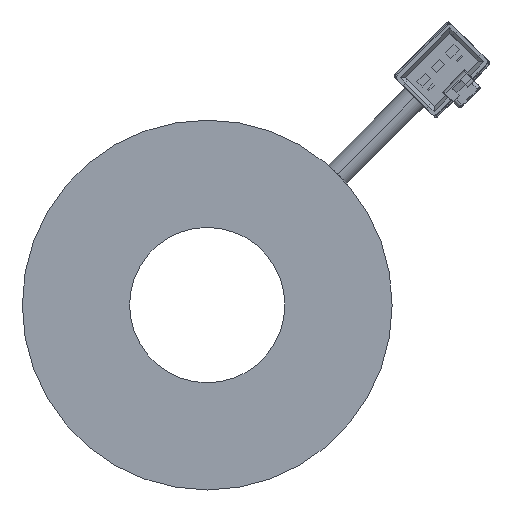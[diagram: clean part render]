
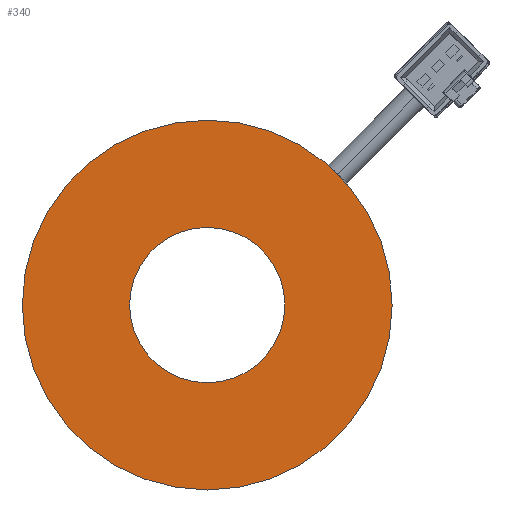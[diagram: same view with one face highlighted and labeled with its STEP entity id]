
A CAD part, front view. The second image highlights one B-rep face of the part: STEP entity #340.
In plain terms, the highlighted planar face has unit normal (0, -1, 0).
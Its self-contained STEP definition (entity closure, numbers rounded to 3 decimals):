
#1=CARTESIAN_POINT('',(0.,0.,0.));
#2=DIRECTION('',(0.,-1.,0.));
#3=DIRECTION('',(0.,0.,1.));
#4=AXIS2_PLACEMENT_3D('',#1,#2,#3);
#6=CARTESIAN_POINT('',(0.,0.,0.));
#7=DIRECTION('',(0.,-1.,0.));
#8=DIRECTION('',(0.,0.,-1.));
#9=AXIS2_PLACEMENT_3D('',#6,#7,#8);
#11=CARTESIAN_POINT('',(0.,0.,0.));
#12=DIRECTION('',(0.,1.,0.));
#13=DIRECTION('',(-1.,0.,0.));
#14=AXIS2_PLACEMENT_3D('',#11,#12,#13);
#16=CARTESIAN_POINT('',(0.,0.,0.));
#17=DIRECTION('',(0.,1.,0.));
#18=DIRECTION('',(1.,0.,0.));
#19=AXIS2_PLACEMENT_3D('',#16,#17,#18);
#265=CARTESIAN_POINT('',(0.,0.,-25.));
#266=CARTESIAN_POINT('',(0.,0.,25.));
#267=VERTEX_POINT('',#265);
#268=VERTEX_POINT('',#266);
#315=CARTESIAN_POINT('',(-10.5,0.,0.));
#316=CARTESIAN_POINT('',(10.5,0.,0.));
#317=VERTEX_POINT('',#315);
#318=VERTEX_POINT('',#316);
#323=CARTESIAN_POINT('',(0.,0.,0.));
#324=DIRECTION('',(0.,1.,0.));
#325=DIRECTION('',(0.,0.,1.));
#326=AXIS2_PLACEMENT_3D('',#323,#324,#325);
#327=PLANE('',#326);
#329=ORIENTED_EDGE('',*,*,#328,.F.);
#331=ORIENTED_EDGE('',*,*,#330,.F.);
#332=EDGE_LOOP('',(#329,#331));
#333=FACE_OUTER_BOUND('',#332,.F.);
#335=ORIENTED_EDGE('',*,*,#334,.F.);
#337=ORIENTED_EDGE('',*,*,#336,.F.);
#338=EDGE_LOOP('',(#335,#337));
#339=FACE_BOUND('',#338,.F.);
#5=CIRCLE('',#4,25.);
#10=CIRCLE('',#9,25.);
#15=CIRCLE('',#14,10.5);
#20=CIRCLE('',#19,10.5);
#328=EDGE_CURVE('',#268,#267,#5,.T.);
#330=EDGE_CURVE('',#267,#268,#10,.T.);
#334=EDGE_CURVE('',#317,#318,#15,.T.);
#336=EDGE_CURVE('',#318,#317,#20,.T.);
#340=ADVANCED_FACE('',(#333,#339),#327,.F.);
